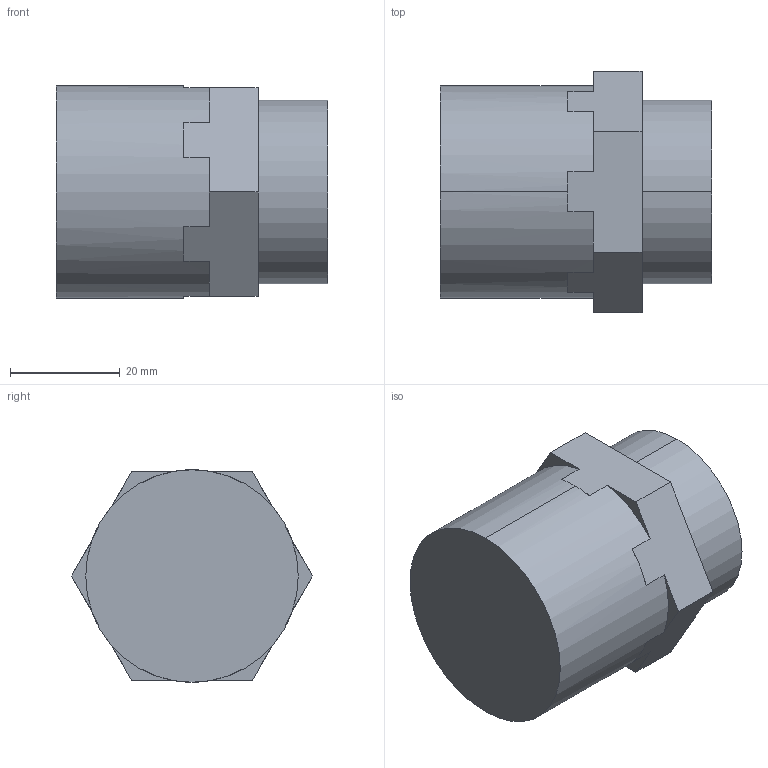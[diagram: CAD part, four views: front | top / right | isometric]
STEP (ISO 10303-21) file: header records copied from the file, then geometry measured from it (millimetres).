
FILE_DESCRIPTION (( 'STEP AP214' ), '1' );
FILE_NAME ('16-weldable.STEP', '2012-12-03T19:20:52', ( '' ), ( '' ), 'SwSTEP 2.0', 'SolidWorks 2012', '' );
FILE_SCHEMA (( 'AUTOMOTIVE_DESIGN' ));
Length unit declared in the file: inch
Products named in the file (1): 16-weldable
Bounding box: 49.5 x 43.99 x 38.79 mm (x, y, z)
Volume: 48262.7 mm3; surface area: 9511.5 mm2
Topology: 1 solids, 1 shells, 28 faces, 72 edges, 48 vertices
Faces by surface type: plane 22, cylinder 6
Entity records: 939 total; most frequent: DIRECTION 154, CARTESIAN_POINT 149, ORIENTED_EDGE 144, EDGE_CURVE 72, AXIS2_PLACEMENT_3D 53, LINE 48, VECTOR 48, VERTEX_POINT 48
